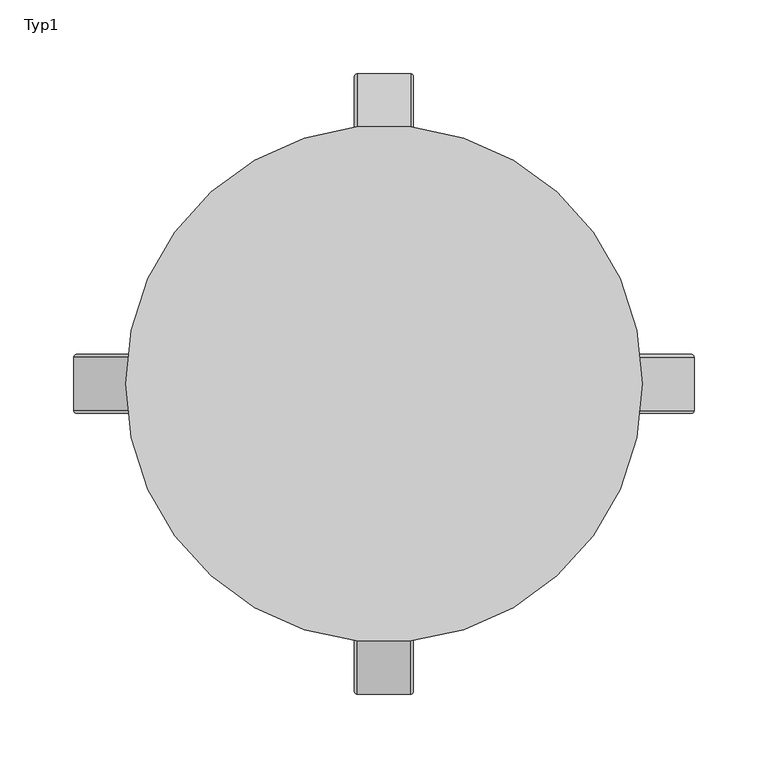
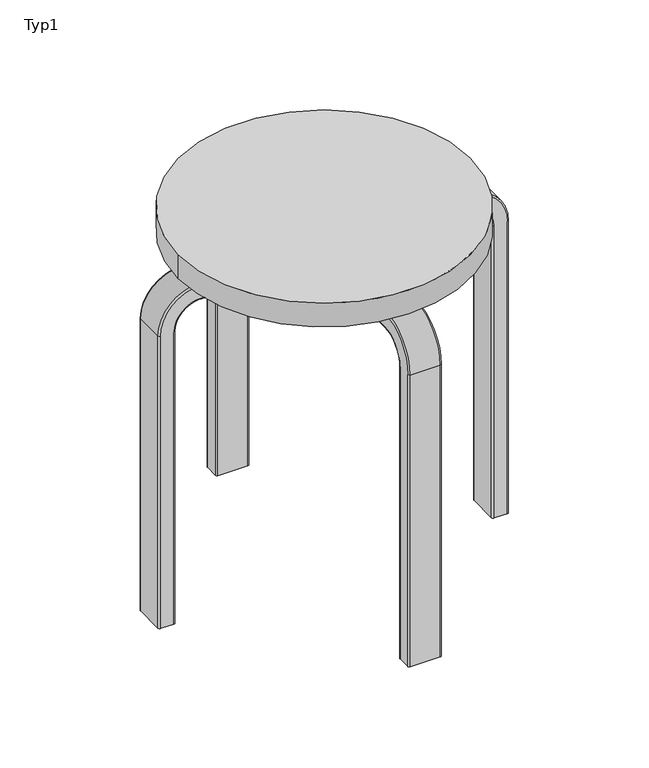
"""IFC4 building model written with IfcOpenShell, lengths in millimetres: furniture geometry, Hocker-04 : Typ1."""

from ifc_helpers import new_model, si_unit, point, frame, origin, origin_2d, place, context, project, spatial, polyline, circle_curve, ellipse_curve, trimmed, segment, composite_curve, outline, extrude, source, transform, mapped, element, save
from ifc_brep_helpers import plane_surface, cylinder_surface, revolved_surface, advanced_brep


def typ1_24384e5f(model_context):
    return source(origin(), model_context, "Body", "SolidModel", [
        advanced_brep(
        [(-20.0, 192.0, 0.0), (-20.0, 208.0, 0.0), (-18.0, 210.0, 0.0), (18.0, 210.0, 0.0), (20.0, 208.0, 0.0), (20.0, 192.0, 0.0), (18.0, 190.0, 0.0), (-18.0, 190.0, 0.0), (-20.0, 192.0, 370.0), (-20.0, 160.0, 402.0), (-20.0, 54.9635481, 402.0), (-20.0, 54.9635481, 418.0), (-20.0, 160.0, 418.0), (-20.0, 208.0, 370.0), (-18.0, 210.0, 370.0), (18.0, 210.0, 370.0), (20.0, 208.0, 370.0), (20.0, 160.0, 418.0), (20.0, 54.9635481, 418.0), (20.0, 54.9635481, 402.0), (20.0, 160.0, 402.0), (20.0, 192.0, 370.0), (18.0, 190.0, 370.0), (-18.0, 190.0, 370.0), (-18.0, 160.0, 420.0), (18.0, 160.0, 420.0), (18.0, 160.0, 400.0), (-18.0, 160.0, 400.0), (-18.0, 54.9635481, 400.0), (18.0, 54.9635481, 400.0), (18.0, 54.9635481, 420.0), (-18.0, 54.9635481, 420.0)],
        [
            (0, 1),
            (1, 2, circle_curve(frame((-18.0, 208.0, 0.0), z_axis=(0.0, 0.0, -1.0), x_axis=(0.0, -1.0, 0.0)), 2.0)),
            (2, 3),
            (3, 4, circle_curve(frame((18.0, 208.0, 0.0), z_axis=(0.0, 0.0, -1.0), x_axis=(0.0, -1.0, 0.0)), 2.0)),
            (4, 5),
            (5, 6, circle_curve(frame((18.0, 192.0, 0.0), z_axis=(0.0, 0.0, -1.0), x_axis=(0.0, -1.0, 0.0)), 2.0)),
            (6, 7),
            (7, 0, circle_curve(frame((-18.0, 192.0, 0.0), z_axis=(0.0, 0.0, -1.0), x_axis=(0.0, -1.0, 0.0)), 2.0)),
            (0, 8),
            (8, 9, circle_curve(frame((-20.0, 160.0, 370.0), z_axis=(1.0, 0.0, 0.0), x_axis=(0.0, 1.0, 0.0)), 32.0)),
            (9, 10),
            (10, 11),
            (11, 12),
            (12, 13, circle_curve(frame((-20.0, 160.0, 370.0), z_axis=(-1.0, 0.0, 0.0), x_axis=(0.0, 1.0, 0.0)), 48.0)),
            (13, 1),
            (13, 14, circle_curve(frame((-18.0, 208.0, 370.0), z_axis=(0.0, 0.0, -1.0), x_axis=(0.0, -1.0, 0.0)), 2.0)),
            (14, 2),
            (14, 15),
            (15, 3),
            (15, 16, circle_curve(frame((18.0, 208.0, 370.0), z_axis=(0.0, 0.0, -1.0), x_axis=(0.0, -1.0, 0.0)), 2.0)),
            (16, 4),
            (16, 17, circle_curve(frame((20.0, 160.0, 370.0), z_axis=(1.0, 0.0, 0.0), x_axis=(0.0, 1.0, 0.0)), 48.0)),
            (17, 18),
            (18, 19),
            (19, 20),
            (20, 21, circle_curve(frame((20.0, 160.0, 370.0), z_axis=(-1.0, 0.0, 0.0), x_axis=(0.0, 1.0, 0.0)), 32.0)),
            (21, 5),
            (21, 22, circle_curve(frame((18.0, 192.0, 370.0), z_axis=(0.0, 0.0, -1.0), x_axis=(0.0, -1.0, 0.0)), 2.0)),
            (22, 6),
            (22, 23),
            (23, 7),
            (23, 8, circle_curve(frame((-18.0, 192.0, 370.0), z_axis=(0.0, 0.0, -1.0), x_axis=(0.0, -1.0, 0.0)), 2.0)),
            (24, 14, circle_curve(frame((-18.0, 160.0, 370.0), z_axis=(-1.0, 0.0, 0.0), x_axis=(0.0, 1.0, 0.0)), 50.0)),
            (12, 24, circle_curve(frame((-18.0, 160.0, 418.0), z_axis=(0.0, 1.0, 0.0), x_axis=(0.0, 0.0, -1.0)), 2.0)),
            (25, 15, circle_curve(frame((18.0, 160.0, 370.0), z_axis=(-1.0, 0.0, 0.0), x_axis=(0.0, 1.0, 0.0)), 50.0)),
            (24, 25),
            (25, 17, circle_curve(frame((18.0, 160.0, 418.0), z_axis=(0.0, 1.0, 0.0), x_axis=(0.0, 0.0, -1.0)), 2.0)),
            (26, 22, circle_curve(frame((18.0, 160.0, 370.0), z_axis=(-1.0, 0.0, 0.0), x_axis=(0.0, 1.0, 0.0)), 30.0)),
            (20, 26, circle_curve(frame((18.0, 160.0, 402.0), z_axis=(0.0, 1.0, 0.0), x_axis=(0.0, 0.0, -1.0)), 2.0)),
            (27, 23, circle_curve(frame((-18.0, 160.0, 370.0), z_axis=(-1.0, 0.0, 0.0), x_axis=(0.0, 1.0, 0.0)), 30.0)),
            (26, 27),
            (27, 9, circle_curve(frame((-18.0, 160.0, 402.0), z_axis=(0.0, 1.0, 0.0), x_axis=(0.0, 0.0, -1.0)), 2.0)),
            (10, 28, circle_curve(frame((-18.0, 54.9635481, 402.0), z_axis=(0.0, -1.0, 0.0), x_axis=(0.0, 0.0, -1.0)), 2.0)),
            (28, 29),
            (29, 19, circle_curve(frame((18.0, 54.9635481, 402.0), z_axis=(0.0, -1.0, 0.0), x_axis=(0.0, 0.0, -1.0)), 2.0)),
            (18, 30, circle_curve(frame((18.0, 54.9635481, 418.0), z_axis=(0.0, -1.0, 0.0), x_axis=(0.0, 0.0, -1.0)), 2.0)),
            (30, 31),
            (31, 11, circle_curve(frame((-18.0, 54.9635481, 418.0), z_axis=(0.0, -1.0, 0.0), x_axis=(0.0, 0.0, -1.0)), 2.0)),
            (31, 24),
            (30, 25),
            (29, 26),
            (28, 27),
        ],
        [
            plane_surface(frame((0.0, 210.0, 0.0), z_axis=(0.0, 0.0, -1.0), x_axis=(1.0, 0.0, 0.0))),
            plane_surface(frame((-20.0, 192.0, 0.0), z_axis=(-1.0, 0.0, 0.0), x_axis=(0.0, 0.0, 1.0))),
            cylinder_surface(frame((-18.0, 208.0, 0.0), z_axis=(0.0, 0.0, -1.0), x_axis=(0.0, -1.0, 0.0)), 2.0),
            plane_surface(frame((-18.0, 210.0, 0.0), z_axis=(0.0, 1.0, 0.0), x_axis=(0.0, 0.0, 1.0))),
            cylinder_surface(frame((18.0, 208.0, 0.0), z_axis=(0.0, 0.0, -1.0), x_axis=(0.0, -1.0, 0.0)), 2.0),
            plane_surface(frame((20.0, 208.0, 0.0), z_axis=(1.0, 0.0, 0.0), x_axis=(0.0, 0.0, 1.0))),
            cylinder_surface(frame((18.0, 192.0, 0.0), z_axis=(0.0, 0.0, -1.0), x_axis=(0.0, -1.0, 0.0)), 2.0),
            plane_surface(frame((18.0, 190.0, 0.0), z_axis=(0.0, -1.0, 0.0), x_axis=(0.0, 0.0, 1.0))),
            cylinder_surface(frame((-18.0, 192.0, 0.0), z_axis=(0.0, 0.0, -1.0), x_axis=(0.0, -1.0, 0.0)), 2.0),
            revolved_surface(trimmed(ellipse_curve(frame((-18.0, 208.0, 370.0), z_axis=(0.0, 0.0, -1.0), x_axis=(0.0, -1.0, 0.0)), 2.0, 2.0), [point((-20.0, 208.0, 370.0))], [point((-18.0, 210.0, 370.0))], True, "CARTESIAN"), (0.0, 160.0, 370.0), (1.0, 0.0, 0.0)),
            cylinder_surface(frame((0.0, 160.0, 370.0), z_axis=(1.0, 0.0, 0.0), x_axis=(0.0, 1.0, 0.0)), 50.0),
            revolved_surface(trimmed(ellipse_curve(frame((18.0, 208.0, 370.0), z_axis=(0.0, 0.0, -1.0), x_axis=(0.0, -1.0, 0.0)), 2.0, 2.0), [point((18.0, 210.0, 370.0))], [point((20.0, 208.0, 370.0))], True, "CARTESIAN"), (0.0, 160.0, 370.0), (1.0, 0.0, 0.0)),
            revolved_surface(trimmed(ellipse_curve(frame((18.0, 192.0, 370.0), z_axis=(0.0, 0.0, -1.0), x_axis=(0.0, -1.0, 0.0)), 2.0, 2.0), [point((20.0, 192.0, 370.0))], [point((18.0, 190.0, 370.0))], True, "CARTESIAN"), (0.0, 160.0, 370.0), (1.0, 0.0, 0.0)),
            revolved_surface(polyline([(18.0, 190.0, 370.0), (-18.0, 190.0, 370.0)]), (0.0, 160.0, 370.0), (1.0, 0.0, 0.0)),
            revolved_surface(trimmed(ellipse_curve(frame((-18.0, 192.0, 370.0), z_axis=(0.0, 0.0, -1.0), x_axis=(0.0, -1.0, 0.0)), 2.0, 2.0), [point((-18.0, 190.0, 370.0))], [point((-20.0, 192.0, 370.0))], True, "CARTESIAN"), (0.0, 160.0, 370.0), (1.0, 0.0, 0.0)),
            plane_surface(frame((0.0, 54.9635481, 420.0), z_axis=(0.0, -1.0, 0.0), x_axis=(1.0, 0.0, 0.0))),
            cylinder_surface(frame((-18.0, 160.0, 418.0), z_axis=(0.0, 1.0, 0.0), x_axis=(0.0, 0.0, -1.0)), 2.0),
            plane_surface(frame((-18.0, 160.0, 420.0), z_axis=(0.0, 0.0, 1.0), x_axis=(0.0, -1.0, 0.0))),
            cylinder_surface(frame((18.0, 160.0, 418.0), z_axis=(0.0, 1.0, 0.0), x_axis=(0.0, 0.0, -1.0)), 2.0),
            cylinder_surface(frame((18.0, 160.0, 402.0), z_axis=(0.0, 1.0, 0.0), x_axis=(0.0, 0.0, -1.0)), 2.0),
            plane_surface(frame((18.0, 160.0, 400.0), z_axis=(0.0, 0.0, -1.0), x_axis=(0.0, -1.0, 0.0))),
            cylinder_surface(frame((-18.0, 160.0, 402.0), z_axis=(0.0, 1.0, 0.0), x_axis=(0.0, 0.0, -1.0)), 2.0),
        ],
        [
            (0, [[1, 2, 3, 4, 5, 6, 7, 8]]),
            (1, [[-1, 9, 10, 11, 12, 13, 14, 15]]),
            (2, [[-2, -15, 16, 17]]),
            (3, [[-3, -17, 18, 19]]),
            (4, [[-4, -19, 20, 21]]),
            (5, [[-5, -21, 22, 23, 24, 25, 26, 27]]),
            (6, [[-6, -27, 28, 29]]),
            (7, [[-7, -29, 30, 31]]),
            (8, [[-8, -31, 32, -9]]),
            (9, [[33, -16, -14, 34]]),
            (10, [[35, -18, -33, 36]]),
            (11, [[-22, -20, -35, 37]]),
            (12, [[38, -28, -26, 39]]),
            (13, [[40, -30, -38, 41]]),
            (14, [[-10, -32, -40, 42]]),
            (15, [[43, 44, 45, -24, 46, 47, 48, -12]]),
            (16, [[-34, -13, -48, 49]]),
            (17, [[-36, -49, -47, 50]]),
            (18, [[-37, -50, -46, -23]]),
            (19, [[-39, -25, -45, 51]]),
            (20, [[-41, -51, -44, 52]]),
            (21, [[-42, -52, -43, -11]]),
        ],
    ),
        advanced_brep(
        [(-20.0, -192.0, 0.0), (-18.0, -190.0, 0.0), (18.0, -190.0, 0.0), (20.0, -192.0, 0.0), (20.0, -208.0, 0.0), (18.0, -210.0, 0.0), (-18.0, -210.0, 0.0), (-20.0, -208.0, 0.0), (-20.0, -192.0, 370.0), (-18.0, -190.0, 370.0), (18.0, -190.0, 370.0), (20.0, -192.0, 370.0), (20.0, -160.0, 402.0), (20.0, -54.9635481, 402.0), (20.0, -54.9635481, 418.0), (20.0, -160.0, 418.0), (20.0, -208.0, 370.0), (18.0, -210.0, 370.0), (-18.0, -210.0, 370.0), (-20.0, -208.0, 370.0), (-20.0, -160.0, 418.0), (-20.0, -54.9635481, 418.0), (-20.0, -54.9635481, 402.0), (-20.0, -160.0, 402.0), (-18.0, -160.0, 400.0), (18.0, -160.0, 400.0), (18.0, -160.0, 420.0), (-18.0, -160.0, 420.0), (-18.0, -54.9635481, 420.0), (18.0, -54.9635481, 420.0), (18.0, -54.9635481, 400.0), (-18.0, -54.9635481, 400.0)],
        [
            (0, 1, circle_curve(frame((-18.0, -192.0, 0.0), z_axis=(0.0, 0.0, -1.0), x_axis=(0.0, 1.0, 0.0)), 2.0)),
            (1, 2),
            (2, 3, circle_curve(frame((18.0, -192.0, 0.0), z_axis=(0.0, 0.0, -1.0), x_axis=(0.0, 1.0, 0.0)), 2.0)),
            (3, 4),
            (4, 5, circle_curve(frame((18.0, -208.0, 0.0), z_axis=(0.0, 0.0, -1.0), x_axis=(0.0, 1.0, 0.0)), 2.0)),
            (5, 6),
            (6, 7, circle_curve(frame((-18.0, -208.0, 0.0), z_axis=(0.0, 0.0, -1.0), x_axis=(0.0, 1.0, 0.0)), 2.0)),
            (7, 0),
            (0, 8),
            (8, 9, circle_curve(frame((-18.0, -192.0, 370.0), z_axis=(0.0, 0.0, -1.0), x_axis=(0.0, 1.0, 0.0)), 2.0)),
            (9, 1),
            (9, 10),
            (10, 2),
            (10, 11, circle_curve(frame((18.0, -192.0, 370.0), z_axis=(0.0, 0.0, -1.0), x_axis=(0.0, 1.0, 0.0)), 2.0)),
            (11, 3),
            (11, 12, circle_curve(frame((20.0, -160.0, 370.0), z_axis=(-1.0, 0.0, 0.0), x_axis=(0.0, -1.0, 0.0)), 32.0)),
            (12, 13),
            (13, 14),
            (14, 15),
            (15, 16, circle_curve(frame((20.0, -160.0, 370.0), z_axis=(1.0, 0.0, 0.0), x_axis=(0.0, -1.0, 0.0)), 48.0)),
            (16, 4),
            (16, 17, circle_curve(frame((18.0, -208.0, 370.0), z_axis=(0.0, 0.0, -1.0), x_axis=(0.0, 1.0, 0.0)), 2.0)),
            (17, 5),
            (17, 18),
            (18, 6),
            (18, 19, circle_curve(frame((-18.0, -208.0, 370.0), z_axis=(0.0, 0.0, -1.0), x_axis=(0.0, 1.0, 0.0)), 2.0)),
            (19, 7),
            (19, 20, circle_curve(frame((-20.0, -160.0, 370.0), z_axis=(-1.0, 0.0, 0.0), x_axis=(0.0, -1.0, 0.0)), 48.0)),
            (20, 21),
            (21, 22),
            (22, 23),
            (23, 8, circle_curve(frame((-20.0, -160.0, 370.0), z_axis=(1.0, 0.0, 0.0), x_axis=(0.0, -1.0, 0.0)), 32.0)),
            (24, 9, circle_curve(frame((-18.0, -160.0, 370.0), z_axis=(1.0, 0.0, 0.0), x_axis=(0.0, -1.0, 0.0)), 30.0)),
            (23, 24, circle_curve(frame((-18.0, -160.0, 402.0), z_axis=(0.0, -1.0, 0.0), x_axis=(0.0, 0.0, -1.0)), 2.0)),
            (25, 10, circle_curve(frame((18.0, -160.0, 370.0), z_axis=(1.0, 0.0, 0.0), x_axis=(0.0, -1.0, 0.0)), 30.0)),
            (24, 25),
            (25, 12, circle_curve(frame((18.0, -160.0, 402.0), z_axis=(0.0, -1.0, 0.0), x_axis=(0.0, 0.0, -1.0)), 2.0)),
            (26, 17, circle_curve(frame((18.0, -160.0, 370.0), z_axis=(1.0, 0.0, 0.0), x_axis=(0.0, -1.0, 0.0)), 50.0)),
            (15, 26, circle_curve(frame((18.0, -160.0, 418.0), z_axis=(0.0, -1.0, 0.0), x_axis=(0.0, 0.0, -1.0)), 2.0)),
            (27, 18, circle_curve(frame((-18.0, -160.0, 370.0), z_axis=(1.0, 0.0, 0.0), x_axis=(0.0, -1.0, 0.0)), 50.0)),
            (26, 27),
            (27, 20, circle_curve(frame((-18.0, -160.0, 418.0), z_axis=(0.0, -1.0, 0.0), x_axis=(0.0, 0.0, -1.0)), 2.0)),
            (21, 28, circle_curve(frame((-18.0, -54.9635481, 418.0), z_axis=(0.0, 1.0, 0.0), x_axis=(0.0, 0.0, -1.0)), 2.0)),
            (28, 29),
            (29, 14, circle_curve(frame((18.0, -54.9635481, 418.0), z_axis=(0.0, 1.0, 0.0), x_axis=(0.0, 0.0, -1.0)), 2.0)),
            (13, 30, circle_curve(frame((18.0, -54.9635481, 402.0), z_axis=(0.0, 1.0, 0.0), x_axis=(0.0, 0.0, -1.0)), 2.0)),
            (30, 31),
            (31, 22, circle_curve(frame((-18.0, -54.9635481, 402.0), z_axis=(0.0, 1.0, 0.0), x_axis=(0.0, 0.0, -1.0)), 2.0)),
            (31, 24),
            (30, 25),
            (29, 26),
            (28, 27),
        ],
        [
            plane_surface(frame((0.0, -210.0, 0.0), z_axis=(0.0, 0.0, -1.0), x_axis=(1.0, 0.0, 0.0))),
            cylinder_surface(frame((-18.0, -192.0, 0.0), z_axis=(0.0, 0.0, -1.0), x_axis=(0.0, 1.0, 0.0)), 2.0),
            plane_surface(frame((-18.0, -190.0, 0.0), z_axis=(0.0, 1.0, 0.0), x_axis=(0.0, 0.0, 1.0))),
            cylinder_surface(frame((18.0, -192.0, 0.0), z_axis=(0.0, 0.0, -1.0), x_axis=(0.0, 1.0, 0.0)), 2.0),
            plane_surface(frame((20.0, -192.0, 0.0), z_axis=(1.0, 0.0, 0.0), x_axis=(0.0, 0.0, 1.0))),
            cylinder_surface(frame((18.0, -208.0, 0.0), z_axis=(0.0, 0.0, -1.0), x_axis=(0.0, 1.0, 0.0)), 2.0),
            plane_surface(frame((18.0, -210.0, 0.0), z_axis=(0.0, -1.0, 0.0), x_axis=(0.0, 0.0, 1.0))),
            cylinder_surface(frame((-18.0, -208.0, 0.0), z_axis=(0.0, 0.0, -1.0), x_axis=(0.0, 1.0, 0.0)), 2.0),
            plane_surface(frame((-20.0, -208.0, 0.0), z_axis=(-1.0, 0.0, 0.0), x_axis=(0.0, 0.0, 1.0))),
            revolved_surface(trimmed(ellipse_curve(frame((-18.0, -192.0, 370.0), z_axis=(0.0, 0.0, -1.0), x_axis=(0.0, 1.0, 0.0)), 2.0, 2.0), [point((-20.0, -192.0, 370.0))], [point((-18.0, -190.0, 370.0))], True, "CARTESIAN"), (0.0, -160.0, 370.0), (-1.0, 0.0, 0.0)),
            revolved_surface(polyline([(-18.0, -190.0, 370.0), (18.0, -190.0, 370.0)]), (0.0, -160.0, 370.0), (-1.0, 0.0, 0.0)),
            revolved_surface(trimmed(ellipse_curve(frame((18.0, -192.0, 370.0), z_axis=(0.0, 0.0, -1.0), x_axis=(0.0, 1.0, 0.0)), 2.0, 2.0), [point((18.0, -190.0, 370.0))], [point((20.0, -192.0, 370.0))], True, "CARTESIAN"), (0.0, -160.0, 370.0), (-1.0, 0.0, 0.0)),
            revolved_surface(trimmed(ellipse_curve(frame((18.0, -208.0, 370.0), z_axis=(0.0, 0.0, -1.0), x_axis=(0.0, 1.0, 0.0)), 2.0, 2.0), [point((20.0, -208.0, 370.0))], [point((18.0, -210.0, 370.0))], True, "CARTESIAN"), (0.0, -160.0, 370.0), (-1.0, 0.0, 0.0)),
            cylinder_surface(frame((0.0, -160.0, 370.0), z_axis=(-1.0, 0.0, 0.0), x_axis=(0.0, -1.0, 0.0)), 50.0),
            revolved_surface(trimmed(ellipse_curve(frame((-18.0, -208.0, 370.0), z_axis=(0.0, 0.0, -1.0), x_axis=(0.0, 1.0, 0.0)), 2.0, 2.0), [point((-18.0, -210.0, 370.0))], [point((-20.0, -208.0, 370.0))], True, "CARTESIAN"), (0.0, -160.0, 370.0), (-1.0, 0.0, 0.0)),
            plane_surface(frame((0.0, -54.9635481, 420.0), z_axis=(0.0, 1.0, 0.0), x_axis=(1.0, 0.0, 0.0))),
            cylinder_surface(frame((-18.0, -160.0, 402.0), z_axis=(0.0, -1.0, 0.0), x_axis=(0.0, 0.0, -1.0)), 2.0),
            plane_surface(frame((-18.0, -160.0, 400.0), z_axis=(0.0, 0.0, -1.0), x_axis=(0.0, 1.0, 0.0))),
            cylinder_surface(frame((18.0, -160.0, 402.0), z_axis=(0.0, -1.0, 0.0), x_axis=(0.0, 0.0, -1.0)), 2.0),
            cylinder_surface(frame((18.0, -160.0, 418.0), z_axis=(0.0, -1.0, 0.0), x_axis=(0.0, 0.0, -1.0)), 2.0),
            plane_surface(frame((18.0, -160.0, 420.0), z_axis=(0.0, 0.0, 1.0), x_axis=(0.0, 1.0, 0.0))),
            cylinder_surface(frame((-18.0, -160.0, 418.0), z_axis=(0.0, -1.0, 0.0), x_axis=(0.0, 0.0, -1.0)), 2.0),
        ],
        [
            (0, [[1, 2, 3, 4, 5, 6, 7, 8]]),
            (1, [[-1, 9, 10, 11]]),
            (2, [[-2, -11, 12, 13]]),
            (3, [[-3, -13, 14, 15]]),
            (4, [[-4, -15, 16, 17, 18, 19, 20, 21]]),
            (5, [[-5, -21, 22, 23]]),
            (6, [[-6, -23, 24, 25]]),
            (7, [[-7, -25, 26, 27]]),
            (8, [[-8, -27, 28, 29, 30, 31, 32, -9]]),
            (9, [[33, -10, -32, 34]]),
            (10, [[35, -12, -33, 36]]),
            (11, [[-16, -14, -35, 37]]),
            (12, [[38, -22, -20, 39]]),
            (13, [[40, -24, -38, 41]]),
            (14, [[-28, -26, -40, 42]]),
            (15, [[-30, 43, 44, 45, -18, 46, 47, 48]]),
            (16, [[-34, -31, -48, 49]]),
            (17, [[-36, -49, -47, 50]]),
            (18, [[-37, -50, -46, -17]]),
            (19, [[-39, -19, -45, 51]]),
            (20, [[-41, -51, -44, 52]]),
            (21, [[-42, -52, -43, -29]]),
        ],
    ),
        advanced_brep(
        [(192.0, 20.0, 0.0), (208.0, 20.0, 0.0), (210.0, 18.0, 0.0), (210.0, -18.0, 0.0), (208.0, -20.0, 0.0), (192.0, -20.0, 0.0), (190.0, -18.0, 0.0), (190.0, 18.0, 0.0), (192.0, 20.0, 370.0), (160.0, 20.0, 402.0), (54.9635481, 20.0, 402.0), (54.9635481, 20.0, 418.0), (160.0, 20.0, 418.0), (208.0, 20.0, 370.0), (210.0, 18.0, 370.0), (210.0, -18.0, 370.0), (208.0, -20.0, 370.0), (160.0, -20.0, 418.0), (54.9635481, -20.0, 418.0), (54.9635481, -20.0, 402.0), (160.0, -20.0, 402.0), (192.0, -20.0, 370.0), (190.0, -18.0, 370.0), (190.0, 18.0, 370.0), (160.0, 18.0, 420.0), (160.0, -18.0, 420.0), (160.0, -18.0, 400.0), (160.0, 18.0, 400.0), (54.9635481, 18.0, 400.0), (54.9635481, -18.0, 400.0), (54.9635481, -18.0, 420.0), (54.9635481, 18.0, 420.0)],
        [
            (0, 1),
            (1, 2, circle_curve(frame((208.0, 18.0, 0.0), z_axis=(0.0, 0.0, -1.0), x_axis=(-1.0, 0.0, 0.0)), 2.0)),
            (2, 3),
            (3, 4, circle_curve(frame((208.0, -18.0, 0.0), z_axis=(0.0, 0.0, -1.0), x_axis=(-1.0, 0.0, 0.0)), 2.0)),
            (4, 5),
            (5, 6, circle_curve(frame((192.0, -18.0, 0.0), z_axis=(0.0, 0.0, -1.0), x_axis=(-1.0, 0.0, 0.0)), 2.0)),
            (6, 7),
            (7, 0, circle_curve(frame((192.0, 18.0, 0.0), z_axis=(0.0, 0.0, -1.0), x_axis=(-1.0, 0.0, 0.0)), 2.0)),
            (0, 8),
            (8, 9, circle_curve(frame((160.0, 20.0, 370.0), z_axis=(0.0, -1.0, 0.0), x_axis=(1.0, 0.0, 0.0)), 32.0)),
            (9, 10),
            (10, 11),
            (11, 12),
            (12, 13, circle_curve(frame((160.0, 20.0, 370.0), z_axis=(0.0, 1.0, 0.0), x_axis=(1.0, 0.0, 0.0)), 48.0)),
            (13, 1),
            (13, 14, circle_curve(frame((208.0, 18.0, 370.0), z_axis=(0.0, 0.0, -1.0), x_axis=(-1.0, 0.0, 0.0)), 2.0)),
            (14, 2),
            (14, 15),
            (15, 3),
            (15, 16, circle_curve(frame((208.0, -18.0, 370.0), z_axis=(0.0, 0.0, -1.0), x_axis=(-1.0, 0.0, 0.0)), 2.0)),
            (16, 4),
            (16, 17, circle_curve(frame((160.0, -20.0, 370.0), z_axis=(0.0, -1.0, 0.0), x_axis=(1.0, 0.0, 0.0)), 48.0)),
            (17, 18),
            (18, 19),
            (19, 20),
            (20, 21, circle_curve(frame((160.0, -20.0, 370.0), z_axis=(0.0, 1.0, 0.0), x_axis=(1.0, 0.0, 0.0)), 32.0)),
            (21, 5),
            (21, 22, circle_curve(frame((192.0, -18.0, 370.0), z_axis=(0.0, 0.0, -1.0), x_axis=(-1.0, 0.0, 0.0)), 2.0)),
            (22, 6),
            (22, 23),
            (23, 7),
            (23, 8, circle_curve(frame((192.0, 18.0, 370.0), z_axis=(0.0, 0.0, -1.0), x_axis=(-1.0, 0.0, 0.0)), 2.0)),
            (24, 14, circle_curve(frame((160.0, 18.0, 370.0), z_axis=(0.0, 1.0, 0.0), x_axis=(1.0, 0.0, 0.0)), 50.0)),
            (12, 24, circle_curve(frame((160.0, 18.0, 418.0), z_axis=(1.0, 0.0, 0.0), x_axis=(0.0, 0.0, -1.0)), 2.0)),
            (25, 15, circle_curve(frame((160.0, -18.0, 370.0), z_axis=(0.0, 1.0, 0.0), x_axis=(1.0, 0.0, 0.0)), 50.0)),
            (24, 25),
            (25, 17, circle_curve(frame((160.0, -18.0, 418.0), z_axis=(1.0, 0.0, 0.0), x_axis=(0.0, 0.0, -1.0)), 2.0)),
            (26, 22, circle_curve(frame((160.0, -18.0, 370.0), z_axis=(0.0, 1.0, 0.0), x_axis=(1.0, 0.0, 0.0)), 30.0)),
            (20, 26, circle_curve(frame((160.0, -18.0, 402.0), z_axis=(1.0, 0.0, 0.0), x_axis=(0.0, 0.0, -1.0)), 2.0)),
            (27, 23, circle_curve(frame((160.0, 18.0, 370.0), z_axis=(0.0, 1.0, 0.0), x_axis=(1.0, 0.0, 0.0)), 30.0)),
            (26, 27),
            (27, 9, circle_curve(frame((160.0, 18.0, 402.0), z_axis=(1.0, 0.0, 0.0), x_axis=(0.0, 0.0, -1.0)), 2.0)),
            (10, 28, circle_curve(frame((54.9635481, 18.0, 402.0), z_axis=(-1.0, 0.0, 0.0), x_axis=(0.0, 0.0, -1.0)), 2.0)),
            (28, 29),
            (29, 19, circle_curve(frame((54.9635481, -18.0, 402.0), z_axis=(-1.0, 0.0, 0.0), x_axis=(0.0, 0.0, -1.0)), 2.0)),
            (18, 30, circle_curve(frame((54.9635481, -18.0, 418.0), z_axis=(-1.0, 0.0, 0.0), x_axis=(0.0, 0.0, -1.0)), 2.0)),
            (30, 31),
            (31, 11, circle_curve(frame((54.9635481, 18.0, 418.0), z_axis=(-1.0, 0.0, 0.0), x_axis=(0.0, 0.0, -1.0)), 2.0)),
            (31, 24),
            (30, 25),
            (29, 26),
            (28, 27),
        ],
        [
            plane_surface(frame((210.0, 0.0, 0.0), z_axis=(0.0, 0.0, -1.0), x_axis=(0.0, -1.0, 0.0))),
            plane_surface(frame((192.0, 20.0, 0.0), z_axis=(0.0, 1.0, 0.0), x_axis=(0.0, 0.0, 1.0))),
            cylinder_surface(frame((208.0, 18.0, 0.0), z_axis=(0.0, 0.0, -1.0), x_axis=(-1.0, 0.0, 0.0)), 2.0),
            plane_surface(frame((210.0, 18.0, 0.0), z_axis=(1.0, 0.0, 0.0), x_axis=(0.0, 0.0, 1.0))),
            cylinder_surface(frame((208.0, -18.0, 0.0), z_axis=(0.0, 0.0, -1.0), x_axis=(-1.0, 0.0, 0.0)), 2.0),
            plane_surface(frame((208.0, -20.0, 0.0), z_axis=(0.0, -1.0, 0.0), x_axis=(0.0, 0.0, 1.0))),
            cylinder_surface(frame((192.0, -18.0, 0.0), z_axis=(0.0, 0.0, -1.0), x_axis=(-1.0, 0.0, 0.0)), 2.0),
            plane_surface(frame((190.0, -18.0, 0.0), z_axis=(-1.0, 0.0, 0.0), x_axis=(0.0, 0.0, 1.0))),
            cylinder_surface(frame((192.0, 18.0, 0.0), z_axis=(0.0, 0.0, -1.0), x_axis=(-1.0, 0.0, 0.0)), 2.0),
            revolved_surface(trimmed(ellipse_curve(frame((208.0, 18.0, 370.0), z_axis=(0.0, 0.0, -1.0), x_axis=(-1.0, 0.0, 0.0)), 2.0, 2.0), [point((208.0, 20.0, 370.0))], [point((210.0, 18.0, 370.0))], True, "CARTESIAN"), (160.0, 0.0, 370.0), (0.0, -1.0, 0.0)),
            cylinder_surface(frame((160.0, 0.0, 370.0), z_axis=(0.0, -1.0, 0.0), x_axis=(1.0, 0.0, 0.0)), 50.0),
            revolved_surface(trimmed(ellipse_curve(frame((208.0, -18.0, 370.0), z_axis=(0.0, 0.0, -1.0), x_axis=(-1.0, 0.0, 0.0)), 2.0, 2.0), [point((210.0, -18.0, 370.0))], [point((208.0, -20.0, 370.0))], True, "CARTESIAN"), (160.0, 0.0, 370.0), (0.0, -1.0, 0.0)),
            revolved_surface(trimmed(ellipse_curve(frame((192.0, -18.0, 370.0), z_axis=(0.0, 0.0, -1.0), x_axis=(-1.0, 0.0, 0.0)), 2.0, 2.0), [point((192.0, -20.0, 370.0))], [point((190.0, -18.0, 370.0))], True, "CARTESIAN"), (160.0, 0.0, 370.0), (0.0, -1.0, 0.0)),
            revolved_surface(polyline([(190.0, -18.0, 370.0), (190.0, 18.0, 370.0)]), (160.0, 0.0, 370.0), (0.0, -1.0, 0.0)),
            revolved_surface(trimmed(ellipse_curve(frame((192.0, 18.0, 370.0), z_axis=(0.0, 0.0, -1.0), x_axis=(-1.0, 0.0, 0.0)), 2.0, 2.0), [point((190.0, 18.0, 370.0))], [point((192.0, 20.0, 370.0))], True, "CARTESIAN"), (160.0, 0.0, 370.0), (0.0, -1.0, 0.0)),
            plane_surface(frame((54.9635481, 0.0, 420.0), z_axis=(-1.0, 0.0, 0.0), x_axis=(0.0, -1.0, 0.0))),
            cylinder_surface(frame((160.0, 18.0, 418.0), z_axis=(1.0, 0.0, 0.0), x_axis=(0.0, 0.0, -1.0)), 2.0),
            plane_surface(frame((160.0, 18.0, 420.0), z_axis=(0.0, 0.0, 1.0), x_axis=(-1.0, 0.0, 0.0))),
            cylinder_surface(frame((160.0, -18.0, 418.0), z_axis=(1.0, 0.0, 0.0), x_axis=(0.0, 0.0, -1.0)), 2.0),
            cylinder_surface(frame((160.0, -18.0, 402.0), z_axis=(1.0, 0.0, 0.0), x_axis=(0.0, 0.0, -1.0)), 2.0),
            plane_surface(frame((160.0, -18.0, 400.0), z_axis=(0.0, 0.0, -1.0), x_axis=(-1.0, 0.0, 0.0))),
            cylinder_surface(frame((160.0, 18.0, 402.0), z_axis=(1.0, 0.0, 0.0), x_axis=(0.0, 0.0, -1.0)), 2.0),
        ],
        [
            (0, [[1, 2, 3, 4, 5, 6, 7, 8]]),
            (1, [[-1, 9, 10, 11, 12, 13, 14, 15]]),
            (2, [[-2, -15, 16, 17]]),
            (3, [[-3, -17, 18, 19]]),
            (4, [[-4, -19, 20, 21]]),
            (5, [[-5, -21, 22, 23, 24, 25, 26, 27]]),
            (6, [[-6, -27, 28, 29]]),
            (7, [[-7, -29, 30, 31]]),
            (8, [[-8, -31, 32, -9]]),
            (9, [[33, -16, -14, 34]]),
            (10, [[35, -18, -33, 36]]),
            (11, [[-22, -20, -35, 37]]),
            (12, [[38, -28, -26, 39]]),
            (13, [[40, -30, -38, 41]]),
            (14, [[-10, -32, -40, 42]]),
            (15, [[43, 44, 45, -24, 46, 47, 48, -12]]),
            (16, [[-34, -13, -48, 49]]),
            (17, [[-36, -49, -47, 50]]),
            (18, [[-37, -50, -46, -23]]),
            (19, [[-39, -25, -45, 51]]),
            (20, [[-41, -51, -44, 52]]),
            (21, [[-42, -52, -43, -11]]),
        ],
    ),
        extrude(outline(composite_curve([segment(trimmed(circle_curve(origin_2d(), 175.0), [point((-175.0, 0.0))], [point((175.0, 0.0))], False, "CARTESIAN"), True, "CONTINUOUS"), segment(trimmed(circle_curve(origin_2d(), 175.0), [point((175.0, 0.0))], [point((-175.0, 0.0))], False, "CARTESIAN"), True, "CONTINUOUS")], self_intersect=False)), frame((0.0, 0.0, 420.0), z_axis=(0.0, 0.0, 1.0), x_axis=(1.0, 0.0, 0.0)), (0.0, 0.0, 1.0), 30.0),
        advanced_brep(
        [(-192.0, 20.0, 0.0), (-190.0, 18.0, 0.0), (-190.0, -18.0, 0.0), (-192.0, -20.0, 0.0), (-208.0, -20.0, 0.0), (-210.0, -18.0, 0.0), (-210.0, 18.0, 0.0), (-208.0, 20.0, 0.0), (-192.0, 20.0, 370.0), (-190.0, 18.0, 370.0), (-190.0, -18.0, 370.0), (-192.0, -20.0, 370.0), (-160.0, -20.0, 402.0), (-54.9635481, -20.0, 402.0), (-54.9635481, -20.0, 418.0), (-160.0, -20.0, 418.0), (-208.0, -20.0, 370.0), (-210.0, -18.0, 370.0), (-210.0, 18.0, 370.0), (-208.0, 20.0, 370.0), (-160.0, 20.0, 418.0), (-54.9635481, 20.0, 418.0), (-54.9635481, 20.0, 402.0), (-160.0, 20.0, 402.0), (-160.0, 18.0, 400.0), (-160.0, -18.0, 400.0), (-160.0, -18.0, 420.0), (-160.0, 18.0, 420.0), (-54.9635481, 18.0, 420.0), (-54.9635481, -18.0, 420.0), (-54.9635481, -18.0, 400.0), (-54.9635481, 18.0, 400.0)],
        [
            (0, 1, circle_curve(frame((-192.0, 18.0, 0.0), z_axis=(0.0, 0.0, -1.0), x_axis=(1.0, 0.0, 0.0)), 2.0)),
            (1, 2),
            (2, 3, circle_curve(frame((-192.0, -18.0, 0.0), z_axis=(0.0, 0.0, -1.0), x_axis=(1.0, 0.0, 0.0)), 2.0)),
            (3, 4),
            (4, 5, circle_curve(frame((-208.0, -18.0, 0.0), z_axis=(0.0, 0.0, -1.0), x_axis=(1.0, 0.0, 0.0)), 2.0)),
            (5, 6),
            (6, 7, circle_curve(frame((-208.0, 18.0, 0.0), z_axis=(0.0, 0.0, -1.0), x_axis=(1.0, 0.0, 0.0)), 2.0)),
            (7, 0),
            (0, 8),
            (8, 9, circle_curve(frame((-192.0, 18.0, 370.0), z_axis=(0.0, 0.0, -1.0), x_axis=(1.0, 0.0, 0.0)), 2.0)),
            (9, 1),
            (9, 10),
            (10, 2),
            (10, 11, circle_curve(frame((-192.0, -18.0, 370.0), z_axis=(0.0, 0.0, -1.0), x_axis=(1.0, 0.0, 0.0)), 2.0)),
            (11, 3),
            (11, 12, circle_curve(frame((-160.0, -20.0, 370.0), z_axis=(0.0, 1.0, 0.0), x_axis=(-1.0, 0.0, 0.0)), 32.0)),
            (12, 13),
            (13, 14),
            (14, 15),
            (15, 16, circle_curve(frame((-160.0, -20.0, 370.0), z_axis=(0.0, -1.0, 0.0), x_axis=(-1.0, 0.0, 0.0)), 48.0)),
            (16, 4),
            (16, 17, circle_curve(frame((-208.0, -18.0, 370.0), z_axis=(0.0, 0.0, -1.0), x_axis=(1.0, 0.0, 0.0)), 2.0)),
            (17, 5),
            (17, 18),
            (18, 6),
            (18, 19, circle_curve(frame((-208.0, 18.0, 370.0), z_axis=(0.0, 0.0, -1.0), x_axis=(1.0, 0.0, 0.0)), 2.0)),
            (19, 7),
            (19, 20, circle_curve(frame((-160.0, 20.0, 370.0), z_axis=(0.0, 1.0, 0.0), x_axis=(-1.0, 0.0, 0.0)), 48.0)),
            (20, 21),
            (21, 22),
            (22, 23),
            (23, 8, circle_curve(frame((-160.0, 20.0, 370.0), z_axis=(0.0, -1.0, 0.0), x_axis=(-1.0, 0.0, 0.0)), 32.0)),
            (24, 9, circle_curve(frame((-160.0, 18.0, 370.0), z_axis=(0.0, -1.0, 0.0), x_axis=(-1.0, 0.0, 0.0)), 30.0)),
            (23, 24, circle_curve(frame((-160.0, 18.0, 402.0), z_axis=(-1.0, 0.0, 0.0), x_axis=(0.0, 0.0, -1.0)), 2.0)),
            (25, 10, circle_curve(frame((-160.0, -18.0, 370.0), z_axis=(0.0, -1.0, 0.0), x_axis=(-1.0, 0.0, 0.0)), 30.0)),
            (24, 25),
            (25, 12, circle_curve(frame((-160.0, -18.0, 402.0), z_axis=(-1.0, 0.0, 0.0), x_axis=(0.0, 0.0, -1.0)), 2.0)),
            (26, 17, circle_curve(frame((-160.0, -18.0, 370.0), z_axis=(0.0, -1.0, 0.0), x_axis=(-1.0, 0.0, 0.0)), 50.0)),
            (15, 26, circle_curve(frame((-160.0, -18.0, 418.0), z_axis=(-1.0, 0.0, 0.0), x_axis=(0.0, 0.0, -1.0)), 2.0)),
            (27, 18, circle_curve(frame((-160.0, 18.0, 370.0), z_axis=(0.0, -1.0, 0.0), x_axis=(-1.0, 0.0, 0.0)), 50.0)),
            (26, 27),
            (27, 20, circle_curve(frame((-160.0, 18.0, 418.0), z_axis=(-1.0, 0.0, 0.0), x_axis=(0.0, 0.0, -1.0)), 2.0)),
            (21, 28, circle_curve(frame((-54.9635481, 18.0, 418.0), z_axis=(1.0, 0.0, 0.0), x_axis=(0.0, 0.0, -1.0)), 2.0)),
            (28, 29),
            (29, 14, circle_curve(frame((-54.9635481, -18.0, 418.0), z_axis=(1.0, 0.0, 0.0), x_axis=(0.0, 0.0, -1.0)), 2.0)),
            (13, 30, circle_curve(frame((-54.9635481, -18.0, 402.0), z_axis=(1.0, 0.0, 0.0), x_axis=(0.0, 0.0, -1.0)), 2.0)),
            (30, 31),
            (31, 22, circle_curve(frame((-54.9635481, 18.0, 402.0), z_axis=(1.0, 0.0, 0.0), x_axis=(0.0, 0.0, -1.0)), 2.0)),
            (31, 24),
            (30, 25),
            (29, 26),
            (28, 27),
        ],
        [
            plane_surface(frame((-210.0, 0.0, 0.0), z_axis=(0.0, 0.0, -1.0), x_axis=(0.0, -1.0, 0.0))),
            cylinder_surface(frame((-192.0, 18.0, 0.0), z_axis=(0.0, 0.0, -1.0), x_axis=(1.0, 0.0, 0.0)), 2.0),
            plane_surface(frame((-190.0, 18.0, 0.0), z_axis=(1.0, 0.0, 0.0), x_axis=(0.0, 0.0, 1.0))),
            cylinder_surface(frame((-192.0, -18.0, 0.0), z_axis=(0.0, 0.0, -1.0), x_axis=(1.0, 0.0, 0.0)), 2.0),
            plane_surface(frame((-192.0, -20.0, 0.0), z_axis=(0.0, -1.0, 0.0), x_axis=(0.0, 0.0, 1.0))),
            cylinder_surface(frame((-208.0, -18.0, 0.0), z_axis=(0.0, 0.0, -1.0), x_axis=(1.0, 0.0, 0.0)), 2.0),
            plane_surface(frame((-210.0, -18.0, 0.0), z_axis=(-1.0, 0.0, 0.0), x_axis=(0.0, 0.0, 1.0))),
            cylinder_surface(frame((-208.0, 18.0, 0.0), z_axis=(0.0, 0.0, -1.0), x_axis=(1.0, 0.0, 0.0)), 2.0),
            plane_surface(frame((-208.0, 20.0, 0.0), z_axis=(0.0, 1.0, 0.0), x_axis=(0.0, 0.0, 1.0))),
            revolved_surface(trimmed(ellipse_curve(frame((-192.0, 18.0, 370.0), z_axis=(0.0, 0.0, -1.0), x_axis=(1.0, 0.0, 0.0)), 2.0, 2.0), [point((-192.0, 20.0, 370.0))], [point((-190.0, 18.0, 370.0))], True, "CARTESIAN"), (-160.0, 0.0, 370.0), (0.0, 1.0, 0.0)),
            revolved_surface(polyline([(-190.0, 18.0, 370.0), (-190.0, -18.0, 370.0)]), (-160.0, 0.0, 370.0), (0.0, 1.0, 0.0)),
            revolved_surface(trimmed(ellipse_curve(frame((-192.0, -18.0, 370.0), z_axis=(0.0, 0.0, -1.0), x_axis=(1.0, 0.0, 0.0)), 2.0, 2.0), [point((-190.0, -18.0, 370.0))], [point((-192.0, -20.0, 370.0))], True, "CARTESIAN"), (-160.0, 0.0, 370.0), (0.0, 1.0, 0.0)),
            revolved_surface(trimmed(ellipse_curve(frame((-208.0, -18.0, 370.0), z_axis=(0.0, 0.0, -1.0), x_axis=(1.0, 0.0, 0.0)), 2.0, 2.0), [point((-208.0, -20.0, 370.0))], [point((-210.0, -18.0, 370.0))], True, "CARTESIAN"), (-160.0, 0.0, 370.0), (0.0, 1.0, 0.0)),
            cylinder_surface(frame((-160.0, 0.0, 370.0), z_axis=(0.0, 1.0, 0.0), x_axis=(-1.0, 0.0, 0.0)), 50.0),
            revolved_surface(trimmed(ellipse_curve(frame((-208.0, 18.0, 370.0), z_axis=(0.0, 0.0, -1.0), x_axis=(1.0, 0.0, 0.0)), 2.0, 2.0), [point((-210.0, 18.0, 370.0))], [point((-208.0, 20.0, 370.0))], True, "CARTESIAN"), (-160.0, 0.0, 370.0), (0.0, 1.0, 0.0)),
            plane_surface(frame((-54.9635481, 0.0, 420.0), z_axis=(1.0, 0.0, 0.0), x_axis=(0.0, -1.0, 0.0))),
            cylinder_surface(frame((-160.0, 18.0, 402.0), z_axis=(-1.0, 0.0, 0.0), x_axis=(0.0, 0.0, -1.0)), 2.0),
            plane_surface(frame((-160.0, 18.0, 400.0), z_axis=(0.0, 0.0, -1.0), x_axis=(1.0, 0.0, 0.0))),
            cylinder_surface(frame((-160.0, -18.0, 402.0), z_axis=(-1.0, 0.0, 0.0), x_axis=(0.0, 0.0, -1.0)), 2.0),
            cylinder_surface(frame((-160.0, -18.0, 418.0), z_axis=(-1.0, 0.0, 0.0), x_axis=(0.0, 0.0, -1.0)), 2.0),
            plane_surface(frame((-160.0, -18.0, 420.0), z_axis=(0.0, 0.0, 1.0), x_axis=(1.0, 0.0, 0.0))),
            cylinder_surface(frame((-160.0, 18.0, 418.0), z_axis=(-1.0, 0.0, 0.0), x_axis=(0.0, 0.0, -1.0)), 2.0),
        ],
        [
            (0, [[1, 2, 3, 4, 5, 6, 7, 8]]),
            (1, [[-1, 9, 10, 11]]),
            (2, [[-2, -11, 12, 13]]),
            (3, [[-3, -13, 14, 15]]),
            (4, [[-4, -15, 16, 17, 18, 19, 20, 21]]),
            (5, [[-5, -21, 22, 23]]),
            (6, [[-6, -23, 24, 25]]),
            (7, [[-7, -25, 26, 27]]),
            (8, [[-8, -27, 28, 29, 30, 31, 32, -9]]),
            (9, [[33, -10, -32, 34]]),
            (10, [[35, -12, -33, 36]]),
            (11, [[-16, -14, -35, 37]]),
            (12, [[38, -22, -20, 39]]),
            (13, [[40, -24, -38, 41]]),
            (14, [[-28, -26, -40, 42]]),
            (15, [[-30, 43, 44, 45, -18, 46, 47, 48]]),
            (16, [[-34, -31, -48, 49]]),
            (17, [[-36, -49, -47, 50]]),
            (18, [[-37, -50, -46, -17]]),
            (19, [[-39, -19, -45, 51]]),
            (20, [[-41, -51, -44, 52]]),
            (21, [[-42, -52, -43, -29]]),
        ],
    ),
    ])


if __name__ == "__main__":
    model = new_model("IFC4")
    model_context = context("Model", 3, world=origin())
    ifc_project = project(units=[si_unit("LENGTHUNIT", "METRE", prefix="MILLI")], contexts=[model_context])
    site = spatial("IfcSite", under=ifc_project)
    building = spatial("IfcBuilding", under=site)
    placement = place(None, origin())
    typ1_shape = typ1_24384e5f(model_context)
    element("IfcFurniture", 1, ObjectType="Hocker-04 : Typ1", at=placement, inside=building, context=model_context, shape_type="MappedRepresentation", body=[
        mapped(typ1_shape, transform((0.0, 0.0, 0.0), x_axis=(1.0, 0.0, 0.0), y_axis=(0.0, 1.0, 0.0), z_axis=(0.0, 0.0, 1.0))),
    ])
    save(model, "model.ifc")
